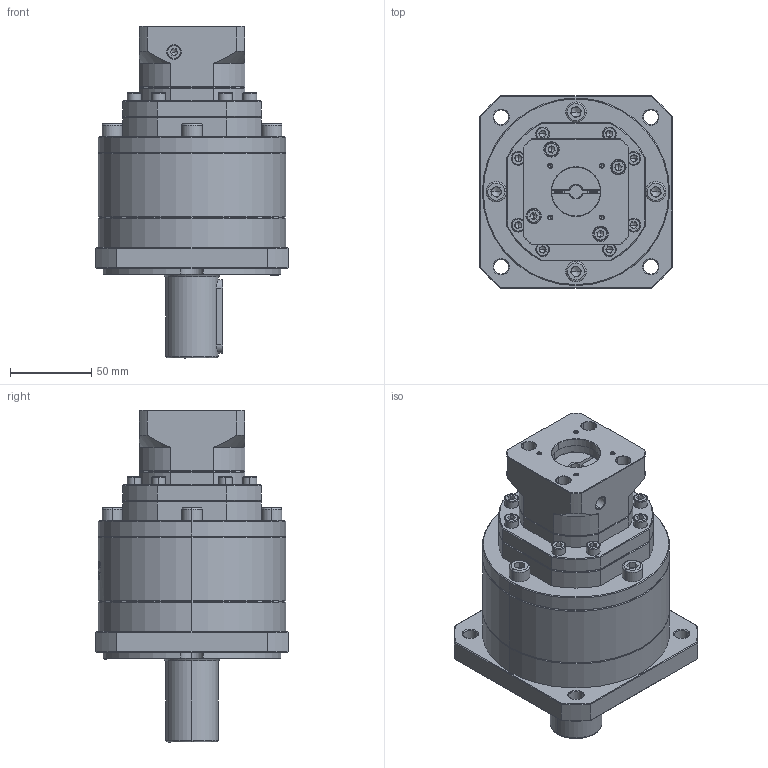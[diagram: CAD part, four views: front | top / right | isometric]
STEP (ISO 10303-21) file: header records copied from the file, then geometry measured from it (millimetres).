
FILE_DESCRIPTION (( 'STEP AP214' ), '1' );
FILE_NAME ('ZF120A-D32-L3-P2-8-30-45-M3.step', '2023-08-27T06:31:39', ( '' ), ( '' ), 'SwSTEP 2.0', 'SolidWorks 2016', '' );
FILE_SCHEMA (( 'AUTOMOTIVE_DESIGN' ));
Length unit declared in the file: millimetre
Products named in the file (1): ZF120A-D32-L3-P2-8-30-45-M3
Bounding box: 118 x 118 x 204 mm (x, y, z)
Volume: 1233452.4 mm3; surface area: 117771.6 mm2
Topology: 7 solids, 7 shells, 2356 faces, 6271 edges, 4025 vertices
Faces by surface type: plane 1179, bspline 435, cylinder 419, cone 301, torus 22
Entity records: 123586 total; most frequent: CARTESIAN_POINT 44398, ORIENTED_EDGE 12434, DIRECTION 9242, EDGE_CURVE 6217, VERTEX_POINT 4025, VECTOR 3344, LINE 3344, AXIS2_PLACEMENT_3D 2949
